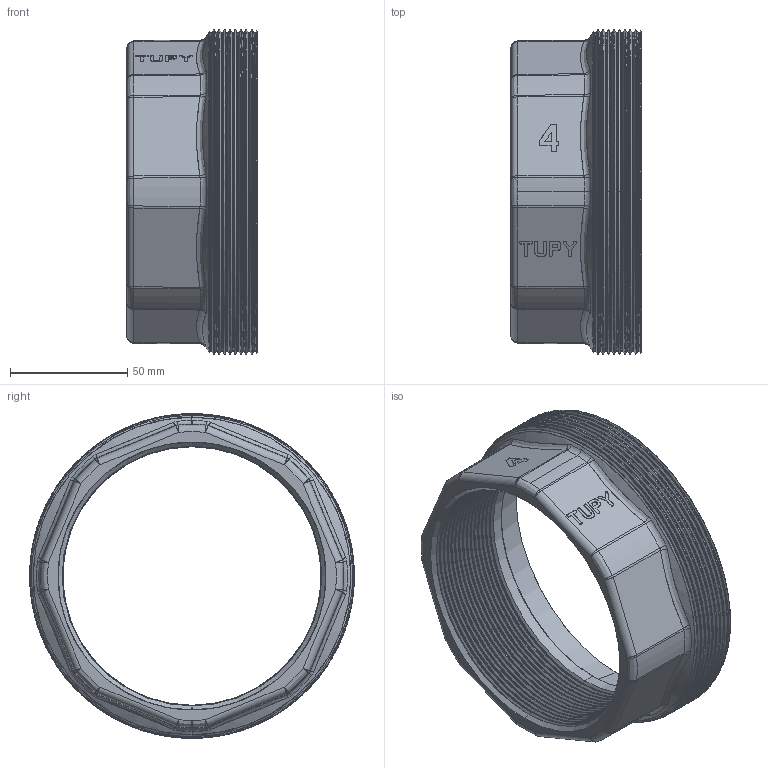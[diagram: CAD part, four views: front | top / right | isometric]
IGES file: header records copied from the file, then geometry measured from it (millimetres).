
Start section: SolidWorks IGES file using analytic representation for surfaces
Global section: file name: C:\Users\alan.martins\Desktop\Nova pasta\12-77-014.IGS; native system: SolidWorks 2012; preprocessor: SolidWorks 2012; author: alan.martins; date: 160323.151752; units: millimetre
Bounding box: 55.5 x 138.39 x 138.4 mm (x, y, z)
Surface area: 64358.6 mm2 (no closed solid volume)
Topology: 0 solids, 0 shells, 440 faces, 2547 edges, 2547 vertices
Faces by surface type: bspline 297, revolution 143
